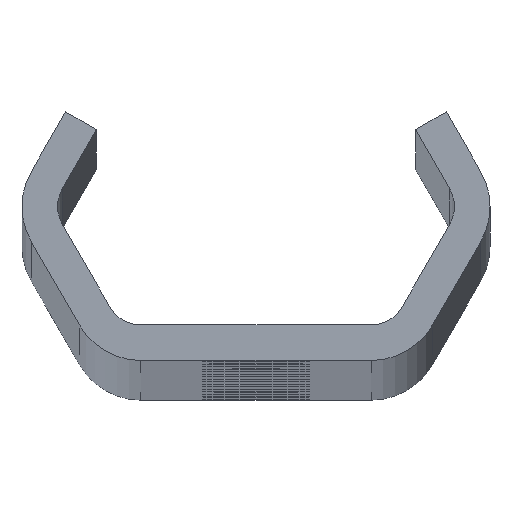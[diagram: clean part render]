
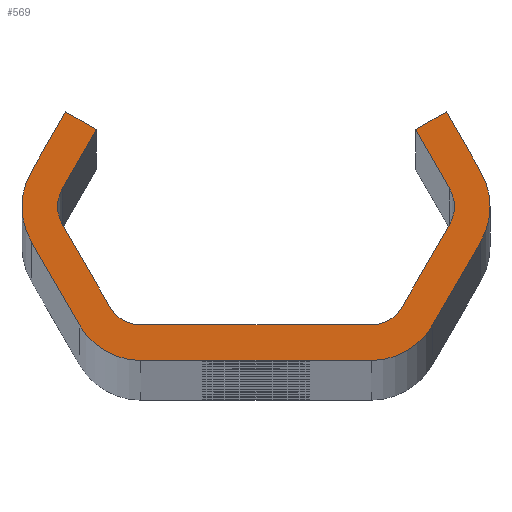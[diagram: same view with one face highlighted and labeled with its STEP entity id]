
A CAD part, top view. The second image highlights one B-rep face of the part: STEP entity #569.
In plain terms, the highlighted planar face has unit normal (0, 0, 1).
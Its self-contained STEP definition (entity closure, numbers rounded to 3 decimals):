
#569=ADVANCED_FACE('NONE',(#1567),#1568,.F.);
#1567=FACE_OUTER_BOUND('',#5001,.T.);
#1568=PLANE('',#5002);
#5001=EDGE_LOOP('',(#10105,#10106,#10107,#10108,#10109,#10110,#10111,#10112,#10113,#10114,#10115,#10116,#10117,#10118,#10119,#10120,#10121,#10122,#10123,#10124,#10125,#10126,#10127,#10128));
#5002=AXIS2_PLACEMENT_3D('',#10129,#10130,#10131);
#10105=ORIENTED_EDGE('',*,*,#13509,.T.);
#10106=ORIENTED_EDGE('',*,*,#13544,.T.);
#10107=ORIENTED_EDGE('',*,*,#13217,.T.);
#10108=ORIENTED_EDGE('',*,*,#13511,.T.);
#10109=ORIENTED_EDGE('',*,*,#13545,.T.);
#10110=ORIENTED_EDGE('',*,*,#13515,.T.);
#10111=ORIENTED_EDGE('',*,*,#13546,.T.);
#10112=ORIENTED_EDGE('',*,*,#13224,.T.);
#10113=ORIENTED_EDGE('',*,*,#13547,.T.);
#10114=ORIENTED_EDGE('',*,*,#12970,.T.);
#10115=ORIENTED_EDGE('',*,*,#13227,.T.);
#10116=ORIENTED_EDGE('',*,*,#13233,.T.);
#10117=ORIENTED_EDGE('',*,*,#13236,.T.);
#10118=ORIENTED_EDGE('',*,*,#13214,.T.);
#10119=ORIENTED_EDGE('',*,*,#13548,.T.);
#10120=ORIENTED_EDGE('',*,*,#13238,.T.);
#10121=ORIENTED_EDGE('',*,*,#13549,.T.);
#10122=ORIENTED_EDGE('',*,*,#13245,.T.);
#10123=ORIENTED_EDGE('',*,*,#13550,.T.);
#10124=ORIENTED_EDGE('',*,*,#13496,.T.);
#10125=ORIENTED_EDGE('',*,*,#13551,.T.);
#10126=ORIENTED_EDGE('',*,*,#12965,.T.);
#10127=ORIENTED_EDGE('',*,*,#13499,.T.);
#10128=ORIENTED_EDGE('',*,*,#13505,.T.);
#10129=CARTESIAN_POINT('',(0.0,0.0,1920.0));
#10130=DIRECTION('',(0.0,0.0,-1.0));
#10131=DIRECTION('',(0.0,-1.0,0.0));
#12965=EDGE_CURVE('NONE',#14460,#14464,#14466,.T.);
#12970=EDGE_CURVE('NONE',#14469,#14473,#14475,.T.);
#13214=EDGE_CURVE('NONE',#14914,#14912,#14915,.T.);
#13217=EDGE_CURVE('NONE',#14918,#14919,#14920,.T.);
#13224=EDGE_CURVE('NONE',#14932,#14930,#14933,.T.);
#13227=EDGE_CURVE('NONE',#14473,#14936,#14937,.T.);
#13233=EDGE_CURVE('NONE',#14936,#14944,#14946,.T.);
#13236=EDGE_CURVE('NONE',#14944,#14914,#14949,.T.);
#13238=EDGE_CURVE('NONE',#14951,#14952,#14953,.T.);
#13245=EDGE_CURVE('NONE',#14965,#14963,#14966,.T.);
#13496=EDGE_CURVE('NONE',#15430,#15428,#15431,.T.);
#13499=EDGE_CURVE('NONE',#14464,#15434,#15435,.T.);
#13505=EDGE_CURVE('NONE',#15434,#15442,#15444,.T.);
#13509=EDGE_CURVE('NONE',#15442,#15448,#15450,.T.);
#13511=EDGE_CURVE('NONE',#14919,#15452,#15453,.T.);
#13515=EDGE_CURVE('NONE',#15458,#15459,#15460,.T.);
#13544=EDGE_CURVE('NONE',#15448,#14918,#15491,.T.);
#13545=EDGE_CURVE('NONE',#15452,#15458,#15492,.T.);
#13546=EDGE_CURVE('NONE',#15459,#14932,#15493,.T.);
#13547=EDGE_CURVE('NONE',#14930,#14469,#15494,.T.);
#13548=EDGE_CURVE('NONE',#14912,#14951,#15495,.T.);
#13549=EDGE_CURVE('NONE',#14952,#14965,#15496,.T.);
#13550=EDGE_CURVE('NONE',#14963,#15430,#15497,.T.);
#13551=EDGE_CURVE('NONE',#15428,#14460,#15498,.T.);
#14460=VERTEX_POINT('',#16677);
#14464=VERTEX_POINT('NONE',#16682);
#14466=CIRCLE('',#16685,3.0);
#14469=VERTEX_POINT('',#16688);
#14473=VERTEX_POINT('NONE',#16693);
#14475=CIRCLE('',#16696,6.0);
#14912=VERTEX_POINT('NONE',#19281);
#14914=VERTEX_POINT('NONE',#19284);
#14915=CIRCLE('',#19285,3.0);
#14918=VERTEX_POINT('NONE',#19289);
#14919=VERTEX_POINT('NONE',#19290);
#14920=CIRCLE('',#19291,6.0);
#14930=VERTEX_POINT('NONE',#19304);
#14932=VERTEX_POINT('NONE',#19307);
#14933=LINE('',#19308,#19309);
#14936=VERTEX_POINT('NONE',#19313);
#14937=LINE('',#19314,#19315);
#14944=VERTEX_POINT('NONE',#19325);
#14946=LINE('',#19328,#19329);
#14949=LINE('',#19333,#19334);
#14951=VERTEX_POINT('NONE',#19336);
#14952=VERTEX_POINT('NONE',#19337);
#14953=LINE('',#19338,#19339);
#14963=VERTEX_POINT('NONE',#19353);
#14965=VERTEX_POINT('NONE',#19356);
#14966=LINE('',#19357,#19358);
#15428=VERTEX_POINT('NONE',#21022);
#15430=VERTEX_POINT('NONE',#21025);
#15431=LINE('',#21026,#21027);
#15434=VERTEX_POINT('NONE',#21031);
#15435=LINE('',#21032,#21033);
#15442=VERTEX_POINT('NONE',#21043);
#15444=LINE('',#21046,#21047);
#15448=VERTEX_POINT('NONE',#21052);
#15450=LINE('',#21055,#21056);
#15452=VERTEX_POINT('NONE',#21058);
#15453=LINE('',#21059,#21060);
#15458=VERTEX_POINT('NONE',#21067);
#15459=VERTEX_POINT('NONE',#21068);
#15460=LINE('',#21069,#21070);
#15491=CIRCLE('',#21104,6.0);
#15492=CIRCLE('',#21105,6.0);
#15493=CIRCLE('',#21106,6.0);
#15494=CIRCLE('',#21107,6.0);
#15495=CIRCLE('',#21108,3.0);
#15496=CIRCLE('',#21109,3.0);
#15497=CIRCLE('',#21110,3.0);
#15498=CIRCLE('',#21111,3.0);
#16677=CARTESIAN_POINT('',(-16.764,0.,1920.0));
#16682=CARTESIAN_POINT('',(-16.362,1.5,1920.0));
#16685=AXIS2_PLACEMENT_3D('',#24993,#24994,#24995);
#16688=CARTESIAN_POINT('',(19.764,0.,1920.0));
#16693=CARTESIAN_POINT('',(18.96,3.,1920.0));
#16696=AXIS2_PLACEMENT_3D('',#25001,#25002,#25003);
#19281=CARTESIAN_POINT('',(16.764,0.,1920.0));
#19284=CARTESIAN_POINT('',(16.362,1.5,1920.0));
#19285=AXIS2_PLACEMENT_3D('',#25248,#25249,#25250);
#19289=CARTESIAN_POINT('',(-19.764,0.,1920.0));
#19290=CARTESIAN_POINT('',(-18.96,-3.,1920.0));
#19291=AXIS2_PLACEMENT_3D('',#25252,#25253,#25254);
#19304=CARTESIAN_POINT('',(18.96,-3.,1920.0));
#19307=CARTESIAN_POINT('',(14.919,-10.,1920.0));
#19308=CARTESIAN_POINT('',(20.692,0.,1920.0));
#19309=VECTOR('',#25262,1000.0);
#19313=CARTESIAN_POINT('',(16.074,8.,1920.0));
#19314=CARTESIAN_POINT('',(16.074,8.,1920.0));
#19315=VECTOR('',#25264,1000.0);
#19325=CARTESIAN_POINT('',(13.475,6.5,1920.0));
#19328=CARTESIAN_POINT('',(13.475,6.5,1920.0));
#19329=VECTOR('',#25269,1000.0);
#19333=CARTESIAN_POINT('',(17.228,0.,1920.0));
#19334=VECTOR('',#25271,1000.0);
#19336=CARTESIAN_POINT('',(16.362,-1.5,1920.0));
#19337=CARTESIAN_POINT('',(12.321,-8.5,1920.0));
#19338=CARTESIAN_POINT('',(11.455,-10.0,1920.0));
#19339=VECTOR('',#25272,1000.0);
#19353=CARTESIAN_POINT('',(-9.723,-10.0,1920.0));
#19356=CARTESIAN_POINT('',(9.723,-10.0,1920.0));
#19357=CARTESIAN_POINT('',(-11.455,-10.0,1920.0));
#19358=VECTOR('',#25278,1000.0);
#21022=CARTESIAN_POINT('',(-16.362,-1.5,1920.0));
#21025=CARTESIAN_POINT('',(-12.321,-8.5,1920.0));
#21026=CARTESIAN_POINT('',(-17.228,0.,1920.0));
#21027=VECTOR('',#25552,1000.0);
#21031=CARTESIAN_POINT('',(-13.475,6.5,1920.0));
#21032=CARTESIAN_POINT('',(-13.475,6.5,1920.0));
#21033=VECTOR('',#25554,1000.0);
#21043=CARTESIAN_POINT('',(-16.074,8.,1920.0));
#21046=CARTESIAN_POINT('',(-13.475,6.5,1920.0));
#21047=VECTOR('',#25559,1000.0);
#21052=CARTESIAN_POINT('',(-18.96,3.,1920.0));
#21055=CARTESIAN_POINT('',(-16.074,8.,1920.0));
#21056=VECTOR('',#25562,1000.0);
#21058=CARTESIAN_POINT('',(-14.919,-10.,1920.0));
#21059=CARTESIAN_POINT('',(-20.692,0.,1920.0));
#21060=VECTOR('',#25563,1000.0);
#21067=CARTESIAN_POINT('',(-9.723,-13.0,1920.0));
#21068=CARTESIAN_POINT('',(9.723,-13.0,1920.0));
#21069=CARTESIAN_POINT('',(-13.187,-13.0,1920.0));
#21070=VECTOR('',#25566,1000.0);
#21104=AXIS2_PLACEMENT_3D('',#25642,#25643,#25644);
#21105=AXIS2_PLACEMENT_3D('',#25645,#25646,#25647);
#21106=AXIS2_PLACEMENT_3D('',#25648,#25649,#25650);
#21107=AXIS2_PLACEMENT_3D('',#25651,#25652,#25653);
#21108=AXIS2_PLACEMENT_3D('',#25654,#25655,#25656);
#21109=AXIS2_PLACEMENT_3D('',#25657,#25658,#25659);
#21110=AXIS2_PLACEMENT_3D('',#25660,#25661,#25662);
#21111=AXIS2_PLACEMENT_3D('',#25663,#25664,#25665);
#24993=CARTESIAN_POINT('',(-13.764,0.,1920.0));
#24994=DIRECTION('',(0.0,0.0,-1.0));
#24995=DIRECTION('',(-1.0,0.0,0.0));
#25001=CARTESIAN_POINT('',(13.764,0.,1920.0));
#25002=DIRECTION('',(0.0,0.0,1.0));
#25003=DIRECTION('',(-1.0,0.0,0.0));
#25248=CARTESIAN_POINT('',(13.764,0.,1920.0));
#25249=DIRECTION('',(0.0,0.0,-1.0));
#25250=DIRECTION('',(-1.0,0.0,0.0));
#25252=CARTESIAN_POINT('',(-13.764,0.,1920.0));
#25253=DIRECTION('',(0.0,0.0,1.0));
#25254=DIRECTION('',(-1.0,0.0,0.0));
#25262=DIRECTION('',(0.5,0.866,-0.0));
#25264=DIRECTION('',(-0.5,0.866,-0.0));
#25269=DIRECTION('',(-0.866,-0.5,-0.0));
#25271=DIRECTION('',(0.5,-0.866,-0.0));
#25272=DIRECTION('',(-0.5,-0.866,-0.0));
#25278=DIRECTION('',(-1.0,0.,-0.0));
#25552=DIRECTION('',(-0.5,0.866,-0.0));
#25554=DIRECTION('',(0.5,0.866,-0.0));
#25559=DIRECTION('',(-0.866,0.5,0.0));
#25562=DIRECTION('',(-0.5,-0.866,0.0));
#25563=DIRECTION('',(0.5,-0.866,0.0));
#25566=DIRECTION('',(1.0,0.0,0.0));
#25642=CARTESIAN_POINT('',(-13.764,0.,1920.0));
#25643=DIRECTION('',(0.0,0.0,1.0));
#25644=DIRECTION('',(-1.0,0.0,0.0));
#25645=CARTESIAN_POINT('',(-9.723,-7.0,1920.0));
#25646=DIRECTION('',(0.0,0.0,1.0));
#25647=DIRECTION('',(-1.0,0.0,0.0));
#25648=CARTESIAN_POINT('',(9.723,-7.0,1920.0));
#25649=DIRECTION('',(0.0,0.0,1.0));
#25650=DIRECTION('',(-1.0,0.,0.0));
#25651=CARTESIAN_POINT('',(13.764,0.,1920.0));
#25652=DIRECTION('',(0.0,0.0,1.0));
#25653=DIRECTION('',(-1.0,0.0,0.0));
#25654=CARTESIAN_POINT('',(13.764,0.,1920.0));
#25655=DIRECTION('',(0.0,0.0,-1.0));
#25656=DIRECTION('',(-1.0,0.0,0.0));
#25657=CARTESIAN_POINT('',(9.723,-7.0,1920.0));
#25658=DIRECTION('',(0.0,0.0,-1.0));
#25659=DIRECTION('',(-1.0,0.0,0.0));
#25660=CARTESIAN_POINT('',(-9.723,-7.0,1920.0));
#25661=DIRECTION('',(0.0,0.0,-1.0));
#25662=DIRECTION('',(-1.0,0.0,0.0));
#25663=CARTESIAN_POINT('',(-13.764,0.,1920.0));
#25664=DIRECTION('',(0.0,0.0,-1.0));
#25665=DIRECTION('',(-1.0,0.0,0.0));
